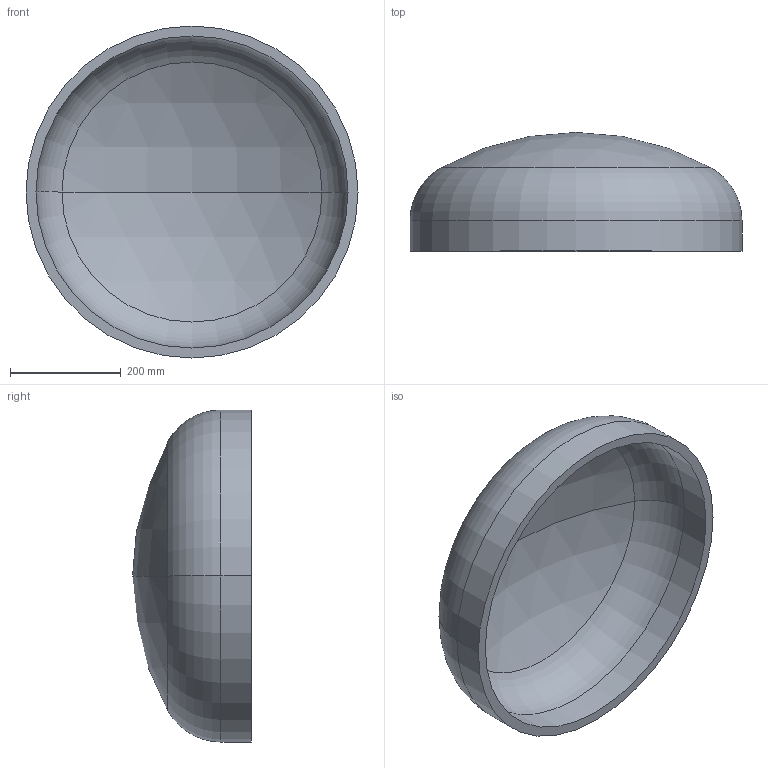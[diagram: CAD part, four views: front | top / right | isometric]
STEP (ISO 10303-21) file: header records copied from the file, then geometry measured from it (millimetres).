
FILE_DESCRIPTION (( 'STEP AP203' ), '1' );
FILE_NAME ('DIN 28013 Korbbogenform_-_Boden DIN 28013 - 600 x 55 - I - s=18.step', '2016-07-01T07:58:05', ( '' ), ( '' ), 'SwSTEP 2.0', 'SolidWorks 2013', '' );
FILE_SCHEMA (( 'CONFIG_CONTROL_DESIGN' ));
Length unit declared in the file: millimetre
Products named in the file (1): DIN 28013 Korbbogenform_-_Boden DIN 28013 - 600 x 55 - I - s=18
Bounding box: 600 x 214.7 x 600 mm (x, y, z)
Volume: 8582038.4 mm3; surface area: 987149.5 mm2
Topology: 1 solids, 1 shells, 13 faces, 24 edges, 14 vertices
Faces by surface type: torus 4, cylinder 4, sphere 4, plane 1
Entity records: 407 total; most frequent: DIRECTION 72, CARTESIAN_POINT 52, ORIENTED_EDGE 48, AXIS2_PLACEMENT_3D 34, EDGE_CURVE 24, CIRCLE 20, EDGE_LOOP 14, VERTEX_POINT 14
